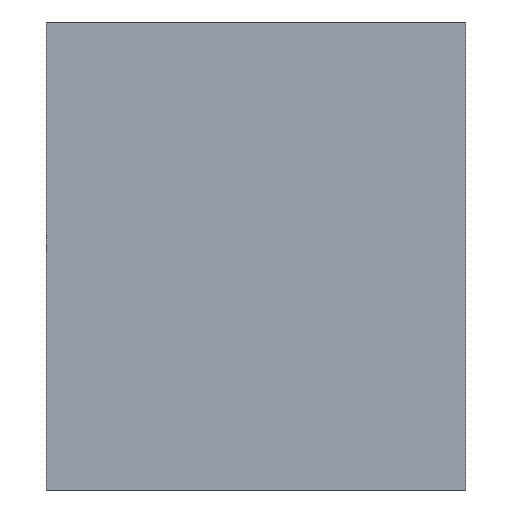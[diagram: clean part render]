
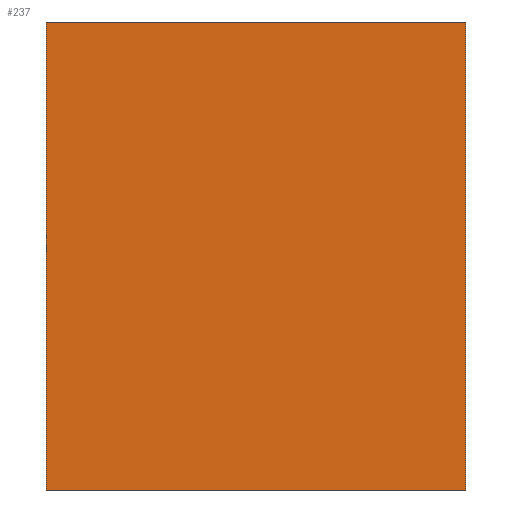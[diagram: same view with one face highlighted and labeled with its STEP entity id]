
A CAD part, front view. The second image highlights one B-rep face of the part: STEP entity #237.
In plain terms, the highlighted planar face has unit normal (0, -1, 0).
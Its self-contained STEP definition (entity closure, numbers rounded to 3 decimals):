
#21 = EDGE_CURVE('',#22,#24,#26,.T.);
#22 = VERTEX_POINT('',#23);
#23 = CARTESIAN_POINT('',(143.,27.,4.));
#24 = VERTEX_POINT('',#25);
#25 = CARTESIAN_POINT('',(143.,27.,47.));
#26 = SURFACE_CURVE('',#27,(#31,#43),.PCURVE_S1.);
#27 = LINE('',#28,#29);
#28 = CARTESIAN_POINT('',(143.,27.,4.));
#29 = VECTOR('',#30,1.);
#30 = DIRECTION('',(0.,0.,1.));
#31 = PCURVE('',#32,#37);
#32 = PLANE('',#33);
#33 = AXIS2_PLACEMENT_3D('',#34,#35,#36);
#34 = CARTESIAN_POINT('',(143.,27.,4.));
#35 = DIRECTION('',(1.,0.,-0.));
#36 = DIRECTION('',(0.,0.,1.));
#37 = DEFINITIONAL_REPRESENTATION('',(#38),#42);
#38 = LINE('',#39,#40);
#39 = CARTESIAN_POINT('',(0.,0.));
#40 = VECTOR('',#41,1.);
#41 = DIRECTION('',(1.,0.));
#42 = ( GEOMETRIC_REPRESENTATION_CONTEXT(2)
PARAMETRIC_REPRESENTATION_CONTEXT() REPRESENTATION_CONTEXT('2D SPACE',''
  ) );
#43 = PCURVE('',#44,#49);
#44 = PLANE('',#45);
#45 = AXIS2_PLACEMENT_3D('',#46,#47,#48);
#46 = CARTESIAN_POINT('',(143.,27.,4.));
#47 = DIRECTION('',(-0.,1.,0.));
#48 = DIRECTION('',(0.,0.,1.));
#49 = DEFINITIONAL_REPRESENTATION('',(#50),#54);
#50 = LINE('',#51,#52);
#51 = CARTESIAN_POINT('',(0.,0.));
#52 = VECTOR('',#53,1.);
#53 = DIRECTION('',(1.,0.));
#54 = ( GEOMETRIC_REPRESENTATION_CONTEXT(2)
PARAMETRIC_REPRESENTATION_CONTEXT() REPRESENTATION_CONTEXT('2D SPACE',''
  ) );
#72 = PLANE('',#73);
#73 = AXIS2_PLACEMENT_3D('',#74,#75,#76);
#74 = CARTESIAN_POINT('',(143.,27.,4.));
#75 = DIRECTION('',(0.,0.,1.));
#76 = DIRECTION('',(1.,0.,-0.));
#126 = PLANE('',#127);
#127 = AXIS2_PLACEMENT_3D('',#128,#129,#130);
#128 = CARTESIAN_POINT('',(143.,27.,47.));
#129 = DIRECTION('',(0.,0.,1.));
#130 = DIRECTION('',(1.,0.,-0.));
#141 = EDGE_CURVE('',#142,#144,#146,.T.);
#142 = VERTEX_POINT('',#143);
#143 = CARTESIAN_POINT('',(181.5,27.,4.));
#144 = VERTEX_POINT('',#145);
#145 = CARTESIAN_POINT('',(181.5,27.,47.));
#146 = SURFACE_CURVE('',#147,(#151,#163),.PCURVE_S1.);
#147 = LINE('',#148,#149);
#148 = CARTESIAN_POINT('',(181.5,27.,4.));
#149 = VECTOR('',#150,1.);
#150 = DIRECTION('',(0.,0.,1.));
#151 = PCURVE('',#152,#157);
#152 = PLANE('',#153);
#153 = AXIS2_PLACEMENT_3D('',#154,#155,#156);
#154 = CARTESIAN_POINT('',(181.5,27.,4.));
#155 = DIRECTION('',(1.,0.,-0.));
#156 = DIRECTION('',(0.,0.,1.));
#157 = DEFINITIONAL_REPRESENTATION('',(#158),#162);
#158 = LINE('',#159,#160);
#159 = CARTESIAN_POINT('',(0.,0.));
#160 = VECTOR('',#161,1.);
#161 = DIRECTION('',(1.,0.));
#162 = ( GEOMETRIC_REPRESENTATION_CONTEXT(2)
PARAMETRIC_REPRESENTATION_CONTEXT() REPRESENTATION_CONTEXT('2D SPACE',''
  ) );
#163 = PCURVE('',#44,#164);
#164 = DEFINITIONAL_REPRESENTATION('',(#165),#169);
#165 = LINE('',#166,#167);
#166 = CARTESIAN_POINT('',(0.,38.5));
#167 = VECTOR('',#168,1.);
#168 = DIRECTION('',(1.,0.));
#169 = ( GEOMETRIC_REPRESENTATION_CONTEXT(2)
PARAMETRIC_REPRESENTATION_CONTEXT() REPRESENTATION_CONTEXT('2D SPACE',''
  ) );
#237 = ADVANCED_FACE('',(#238),#44,.F.);
#238 = FACE_BOUND('',#239,.F.);
#239 = EDGE_LOOP('',(#240,#261,#262,#283));
#240 = ORIENTED_EDGE('',*,*,#241,.F.);
#241 = EDGE_CURVE('',#22,#142,#242,.T.);
#242 = SURFACE_CURVE('',#243,(#247,#254),.PCURVE_S1.);
#243 = LINE('',#244,#245);
#244 = CARTESIAN_POINT('',(143.,27.,4.));
#245 = VECTOR('',#246,1.);
#246 = DIRECTION('',(1.,0.,-0.));
#247 = PCURVE('',#44,#248);
#248 = DEFINITIONAL_REPRESENTATION('',(#249),#253);
#249 = LINE('',#250,#251);
#250 = CARTESIAN_POINT('',(0.,0.));
#251 = VECTOR('',#252,1.);
#252 = DIRECTION('',(0.,1.));
#253 = ( GEOMETRIC_REPRESENTATION_CONTEXT(2)
PARAMETRIC_REPRESENTATION_CONTEXT() REPRESENTATION_CONTEXT('2D SPACE',''
  ) );
#254 = PCURVE('',#72,#255);
#255 = DEFINITIONAL_REPRESENTATION('',(#256),#260);
#256 = LINE('',#257,#258);
#257 = CARTESIAN_POINT('',(0.,0.));
#258 = VECTOR('',#259,1.);
#259 = DIRECTION('',(1.,0.));
#260 = ( GEOMETRIC_REPRESENTATION_CONTEXT(2)
PARAMETRIC_REPRESENTATION_CONTEXT() REPRESENTATION_CONTEXT('2D SPACE',''
  ) );
#261 = ORIENTED_EDGE('',*,*,#21,.T.);
#262 = ORIENTED_EDGE('',*,*,#263,.T.);
#263 = EDGE_CURVE('',#24,#144,#264,.T.);
#264 = SURFACE_CURVE('',#265,(#269,#276),.PCURVE_S1.);
#265 = LINE('',#266,#267);
#266 = CARTESIAN_POINT('',(143.,27.,47.));
#267 = VECTOR('',#268,1.);
#268 = DIRECTION('',(1.,0.,-0.));
#269 = PCURVE('',#44,#270);
#270 = DEFINITIONAL_REPRESENTATION('',(#271),#275);
#271 = LINE('',#272,#273);
#272 = CARTESIAN_POINT('',(43.,0.));
#273 = VECTOR('',#274,1.);
#274 = DIRECTION('',(0.,1.));
#275 = ( GEOMETRIC_REPRESENTATION_CONTEXT(2)
PARAMETRIC_REPRESENTATION_CONTEXT() REPRESENTATION_CONTEXT('2D SPACE',''
  ) );
#276 = PCURVE('',#126,#277);
#277 = DEFINITIONAL_REPRESENTATION('',(#278),#282);
#278 = LINE('',#279,#280);
#279 = CARTESIAN_POINT('',(0.,0.));
#280 = VECTOR('',#281,1.);
#281 = DIRECTION('',(1.,0.));
#282 = ( GEOMETRIC_REPRESENTATION_CONTEXT(2)
PARAMETRIC_REPRESENTATION_CONTEXT() REPRESENTATION_CONTEXT('2D SPACE',''
  ) );
#283 = ORIENTED_EDGE('',*,*,#141,.F.);
